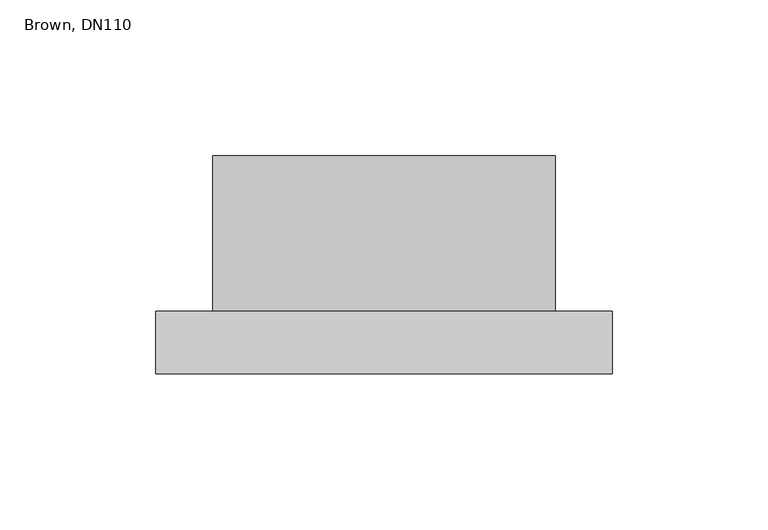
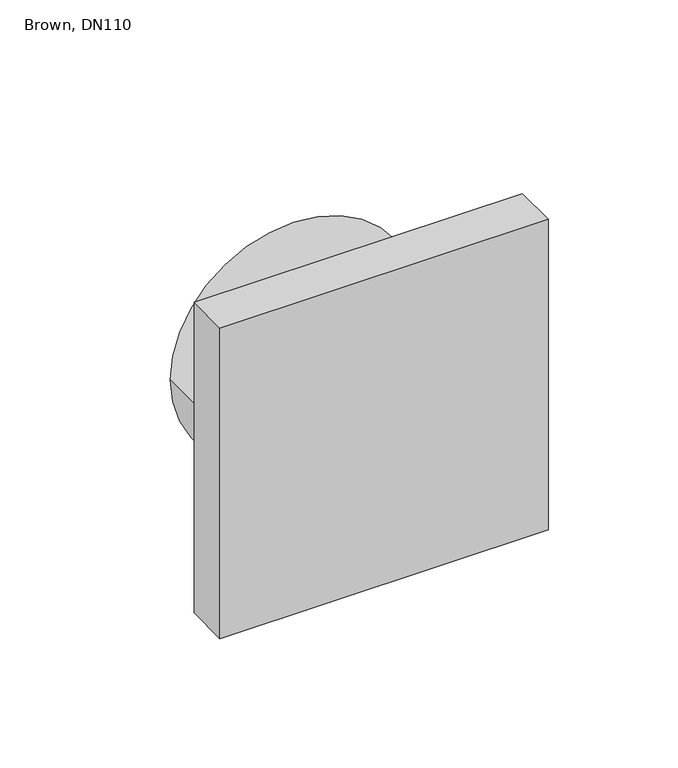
"""IFC4 building model written with IfcOpenShell, lengths in millimetres: valve geometry, MASTER 3 PLUS Aeration valve : Brown, DN110."""

from ifc_helpers import new_model, si_unit, point, frame, origin, origin_2d, place, context, project, spatial, polyline, circle_curve, trimmed, segment, composite_curve, outline, extrude, source, transform, mapped, element, save


def brown_dn110_903b78c5(model_context):
    return source(origin(), model_context, "Body", "SweptSolid", [
        extrude(outline(polyline([(73.3, -20.0), (-73.3, -20.0), (-73.3, 0.0), (73.3, 0.0), (73.3, -20.0)])), frame((0.0, 0.0, -73.3), z_axis=(0.0, 0.0, 1.0), x_axis=(1.0, 0.0, 0.0)), (0.0, 0.0, 1.0), 146.6),
        extrude(outline(composite_curve([segment(trimmed(circle_curve(origin_2d(), 55.0), [point((0.0, -55.0))], [point((0.0, 55.0))], False, "CARTESIAN"), True, "CONTINUOUS"), segment(trimmed(circle_curve(origin_2d(), 55.0), [point((0.0, 55.0))], [point((0.0, -55.0))], False, "CARTESIAN"), True, "CONTINUOUS")], self_intersect=False)), frame((0.0, 0.0, 0.0), z_axis=(0.0, 1.0, 0.0), x_axis=(0.0, 0.0, 1.0)), (0.0, 0.0, 1.0), 50.0),
    ])


if __name__ == "__main__":
    model = new_model("IFC4")
    model_context = context("Model", 3, world=origin())
    ifc_project = project(units=[si_unit("LENGTHUNIT", "METRE", prefix="MILLI")], contexts=[model_context])
    site = spatial("IfcSite", under=ifc_project)
    building = spatial("IfcBuilding", under=site)
    placement = place(None, origin())
    brown_dn110_shape = brown_dn110_903b78c5(model_context)
    element("IfcValve", 1, ObjectType="MASTER 3 PLUS Aeration valve : Brown, DN110", at=placement, inside=building, context=model_context, shape_type="MappedRepresentation", body=[
        mapped(brown_dn110_shape, transform((0.0, 0.0, 0.0), x_axis=(1.0, 0.0, 0.0), y_axis=(0.0, 1.0, 0.0), z_axis=(0.0, 0.0, 1.0))),
    ])
    save(model, "model.ifc")
